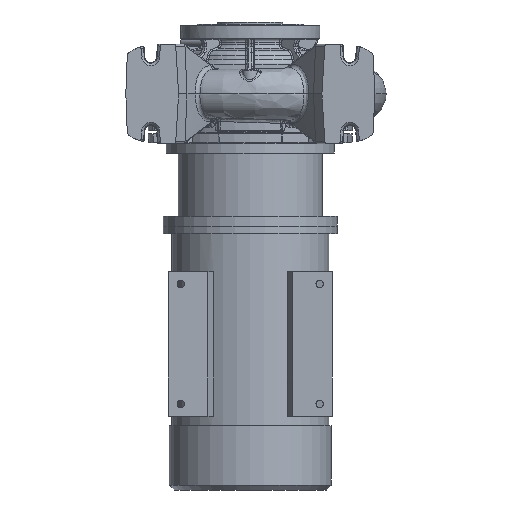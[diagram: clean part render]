
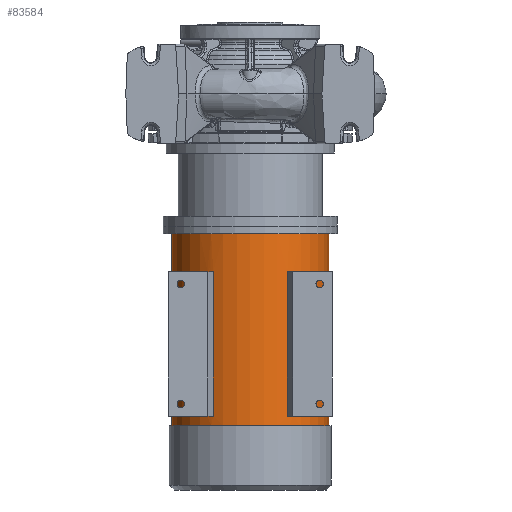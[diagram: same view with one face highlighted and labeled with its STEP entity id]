
A CAD part, front view. The second image highlights one B-rep face of the part: STEP entity #83584.
In plain terms, the highlighted cylindrical face has radius 157.5 mm (diameter 315 mm), a partial arc.
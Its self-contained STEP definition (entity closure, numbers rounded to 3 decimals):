
#5557 = VERTEX_POINT ( 'NONE', #11141 ) ;
#8494 = CIRCLE ( 'NONE', #63799, 157.5 ) ;
#9438 = ORIENTED_EDGE ( 'NONE', *, *, #101947, .T. ) ;
#11141 = CARTESIAN_POINT ( 'NONE',  ( -86.091, -131.889, -357.3 ) ) ;
#13162 = VECTOR ( 'NONE', #65013, 1000. ) ;
#14626 = DIRECTION ( 'NONE',  ( 0., 0., -1. ) ) ;
#15861 = ORIENTED_EDGE ( 'NONE', *, *, #53551, .F. ) ;
#20184 = LINE ( 'NONE', #127011, #84945 ) ;
#21080 = DIRECTION ( 'NONE',  ( 0., 0., -1. ) ) ;
#21695 = DIRECTION ( 'NONE',  ( -1., 0., 0. ) ) ;
#21807 = VERTEX_POINT ( 'NONE', #103033 ) ;
#23146 = ORIENTED_EDGE ( 'NONE', *, *, #125572, .T. ) ;
#23529 = ORIENTED_EDGE ( 'NONE', *, *, #69704, .T. ) ;
#27526 = VERTEX_POINT ( 'NONE', #93812 ) ;
#31752 = EDGE_CURVE ( 'NONE', #66183, #100657, #68127, .T. ) ;
#33430 = DIRECTION ( 'NONE',  ( 0., 0., -1. ) ) ;
#35238 = CIRCLE ( 'NONE', #106065, 157.5 ) ;
#37789 = CARTESIAN_POINT ( 'NONE',  ( 0., 0., -280.8 ) ) ;
#38310 = VERTEX_POINT ( 'NONE', #101924 ) ;
#39060 = CARTESIAN_POINT ( 'NONE',  ( -74.479, -138.777, -795.8 ) ) ;
#40968 = CARTESIAN_POINT ( 'NONE',  ( -86.091, -131.889, -647.3 ) ) ;
#42639 = AXIS2_PLACEMENT_3D ( 'NONE', #88973, #131134, #46751 ) ;
#46751 = DIRECTION ( 'NONE',  ( 1., 0., 0. ) ) ;
#47325 = CARTESIAN_POINT ( 'NONE',  ( -157.5, 0., -666.8 ) ) ;
#48227 = FACE_BOUND ( 'NONE', #125902, .T. ) ;
#49937 = CARTESIAN_POINT ( 'NONE',  ( 157.5, 0., -795.8 ) ) ;
#51449 = ORIENTED_EDGE ( 'NONE', *, *, #31752, .F. ) ;
#52744 = EDGE_LOOP ( 'NONE', ( #15861, #9438, #120380, #62074 ) ) ;
#53380 = CARTESIAN_POINT ( 'NONE',  ( 0., 0., -666.8 ) ) ;
#53551 = EDGE_CURVE ( 'NONE', #63666, #38310, #146671, .T. ) ;
#54184 = LINE ( 'NONE', #39060, #13162 ) ;
#54767 = CARTESIAN_POINT ( 'NONE',  ( -157.5, 0., -280.8 ) ) ;
#57832 = EDGE_LOOP ( 'NONE', ( #51449, #23146, #23529, #168040 ) ) ;
#58789 = EDGE_CURVE ( 'NONE', #27526, #5557, #8494, .T. ) ;
#58904 = DIRECTION ( 'NONE',  ( 0., 0., -1. ) ) ;
#58986 = ORIENTED_EDGE ( 'NONE', *, *, #92680, .T. ) ;
#59032 = CARTESIAN_POINT ( 'NONE',  ( 157.5, 0., -280.8 ) ) ;
#60318 = CIRCLE ( 'NONE', #62168, 157.5 ) ;
#62074 = ORIENTED_EDGE ( 'NONE', *, *, #93149, .F. ) ;
#62168 = AXIS2_PLACEMENT_3D ( 'NONE', #88426, #116160, #76985 ) ;
#63666 = VERTEX_POINT ( 'NONE', #59032 ) ;
#63796 = DIRECTION ( 'NONE',  ( 0., 0., -1. ) ) ;
#63799 = AXIS2_PLACEMENT_3D ( 'NONE', #165898, #166492, #178567 ) ;
#65013 = DIRECTION ( 'NONE',  ( 0., 0., 1. ) ) ;
#66183 = VERTEX_POINT ( 'NONE', #72919 ) ;
#67233 = DIRECTION ( 'NONE',  ( 0., 0., -1. ) ) ;
#68127 = CIRCLE ( 'NONE', #104985, 157.5 ) ;
#69379 = CARTESIAN_POINT ( 'NONE',  ( 86.091, -131.889, -357.3 ) ) ;
#69662 = AXIS2_PLACEMENT_3D ( 'NONE', #94704, #21080, #159108 ) ;
#69704 = EDGE_CURVE ( 'NONE', #112286, #159977, #60318, .T. ) ;
#72919 = CARTESIAN_POINT ( 'NONE',  ( 74.479, -138.777, -647.3 ) ) ;
#74205 = FACE_OUTER_BOUND ( 'NONE', #52744, .T. ) ;
#76985 = DIRECTION ( 'NONE',  ( -1., 0., 0. ) ) ;
#80501 = CYLINDRICAL_SURFACE ( 'NONE', #69662, 157.5 ) ;
#83584 = ADVANCED_FACE ( 'NONE', ( #74205, #138909, #48227 ), #80501, .T. ) ;
#84945 = VECTOR ( 'NONE', #58904, 1000. ) ;
#88426 = CARTESIAN_POINT ( 'NONE',  ( 0., 0., -357.3 ) ) ;
#88973 = CARTESIAN_POINT ( 'NONE',  ( 0., 0., -647.3 ) ) ;
#91505 = ORIENTED_EDGE ( 'NONE', *, *, #134059, .F. ) ;
#92064 = VECTOR ( 'NONE', #14626, 1000. ) ;
#92680 = EDGE_CURVE ( 'NONE', #21807, #108803, #146692, .T. ) ;
#93149 = EDGE_CURVE ( 'NONE', #38310, #133594, #99166, .T. ) ;
#93812 = CARTESIAN_POINT ( 'NONE',  ( -74.479, -138.777, -357.3 ) ) ;
#94704 = CARTESIAN_POINT ( 'NONE',  ( 0., 0., -795.8 ) ) ;
#98011 = ORIENTED_EDGE ( 'NONE', *, *, #58789, .F. ) ;
#99166 = CIRCLE ( 'NONE', #137447, 157.5 ) ;
#100604 = CARTESIAN_POINT ( 'NONE',  ( 74.479, -138.777, -795.8 ) ) ;
#100657 = VERTEX_POINT ( 'NONE', #147744 ) ;
#101766 = DIRECTION ( 'NONE',  ( 0., 0., 1. ) ) ;
#101924 = CARTESIAN_POINT ( 'NONE',  ( 157.5, 0., -666.8 ) ) ;
#101947 = EDGE_CURVE ( 'NONE', #63666, #139425, #35238, .T. ) ;
#103033 = CARTESIAN_POINT ( 'NONE',  ( -74.479, -138.777, -647.3 ) ) ;
#104291 = CARTESIAN_POINT ( 'NONE',  ( 0., 0., -647.3 ) ) ;
#104985 = AXIS2_PLACEMENT_3D ( 'NONE', #104291, #132602, #21695 ) ;
#106065 = AXIS2_PLACEMENT_3D ( 'NONE', #37789, #148139, #108954 ) ;
#108803 = VERTEX_POINT ( 'NONE', #40968 ) ;
#108954 = DIRECTION ( 'NONE',  ( -1., 0., 0. ) ) ;
#112286 = VERTEX_POINT ( 'NONE', #167477 ) ;
#115438 = EDGE_CURVE ( 'NONE', #139425, #133594, #148108, .T. ) ;
#116160 = DIRECTION ( 'NONE',  ( 0., 0., 1. ) ) ;
#120380 = ORIENTED_EDGE ( 'NONE', *, *, #115438, .T. ) ;
#120547 = ORIENTED_EDGE ( 'NONE', *, *, #137211, .F. ) ;
#125572 = EDGE_CURVE ( 'NONE', #66183, #112286, #139895, .T. ) ;
#125902 = EDGE_LOOP ( 'NONE', ( #120547, #58986, #91505, #98011 ) ) ;
#127011 = CARTESIAN_POINT ( 'NONE',  ( 86.091, -131.889, -795.8 ) ) ;
#131134 = DIRECTION ( 'NONE',  ( 0., 0., -1. ) ) ;
#132602 = DIRECTION ( 'NONE',  ( 0., 0., 1. ) ) ;
#133594 = VERTEX_POINT ( 'NONE', #47325 ) ;
#134059 = EDGE_CURVE ( 'NONE', #5557, #108803, #149969, .T. ) ;
#137211 = EDGE_CURVE ( 'NONE', #21807, #27526, #54184, .T. ) ;
#137447 = AXIS2_PLACEMENT_3D ( 'NONE', #53380, #67233, #163677 ) ;
#138909 = FACE_BOUND ( 'NONE', #57832, .T. ) ;
#139425 = VERTEX_POINT ( 'NONE', #54767 ) ;
#139895 = LINE ( 'NONE', #100604, #148573 ) ;
#146671 = LINE ( 'NONE', #49937, #163995 ) ;
#146692 = CIRCLE ( 'NONE', #42639, 157.5 ) ;
#147744 = CARTESIAN_POINT ( 'NONE',  ( 86.091, -131.889, -647.3 ) ) ;
#148108 = LINE ( 'NONE', #174965, #92064 ) ;
#148139 = DIRECTION ( 'NONE',  ( 0., 0., -1. ) ) ;
#148573 = VECTOR ( 'NONE', #101766, 1000. ) ;
#149969 = LINE ( 'NONE', #170944, #156303 ) ;
#156303 = VECTOR ( 'NONE', #33430, 1000. ) ;
#159108 = DIRECTION ( 'NONE',  ( -1., 0., 0. ) ) ;
#159977 = VERTEX_POINT ( 'NONE', #69379 ) ;
#163677 = DIRECTION ( 'NONE',  ( -1., 0., 0. ) ) ;
#163995 = VECTOR ( 'NONE', #63796, 1000. ) ;
#165898 = CARTESIAN_POINT ( 'NONE',  ( 0., 0., -357.3 ) ) ;
#166492 = DIRECTION ( 'NONE',  ( 0., 0., -1. ) ) ;
#167477 = CARTESIAN_POINT ( 'NONE',  ( 74.479, -138.777, -357.3 ) ) ;
#168040 = ORIENTED_EDGE ( 'NONE', *, *, #176877, .T. ) ;
#170944 = CARTESIAN_POINT ( 'NONE',  ( -86.091, -131.889, -795.8 ) ) ;
#174965 = CARTESIAN_POINT ( 'NONE',  ( -157.5, 0., -795.8 ) ) ;
#176877 = EDGE_CURVE ( 'NONE', #159977, #100657, #20184, .T. ) ;
#178567 = DIRECTION ( 'NONE',  ( 1., 0., 0. ) ) ;
